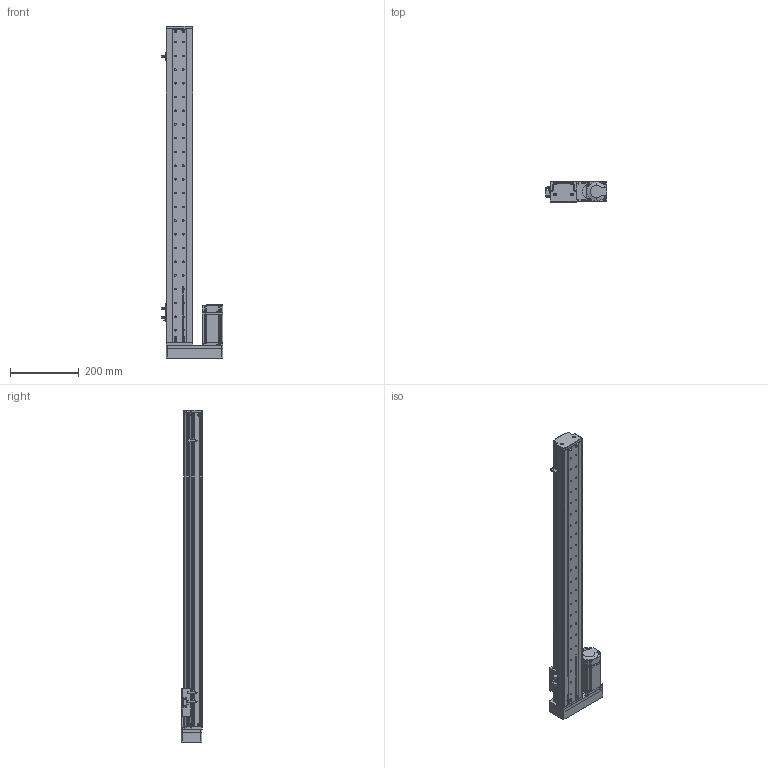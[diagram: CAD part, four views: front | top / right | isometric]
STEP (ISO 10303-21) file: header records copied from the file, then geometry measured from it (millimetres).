
FILE_DESCRIPTION (( 'STEP AP214' ), '1' );
FILE_NAME ('KSD75S-S760-ML-CM.STEP', '2019-10-18T07:05:07', ( '微软用户' ), ( '微软中国' ), 'SwSTEP 2.0', 'SolidWorks 2014', '' );
FILE_SCHEMA (( 'AUTOMOTIVE_DESIGN' ));
Length unit declared in the file: millimetre
Products named in the file (13): MHMD042G1CA_2_03; 75宽模组保护罩左右折; 75宽马达安装板连板左右折丝杆; 覜茼え100遵圉猾敕; U倰嫖萇EEㄜSX672; 綴傷啣 ; ヶ傷啣; 75裔啣-760俴最; 75遵耀郪耜啣-760俴最; 75遵賑雄釱; MGW15H賑寢760; 760俴最; KSD75S-S760-ML-CM
Assembly tree (15 placements, depth 3):
  KSD75S-S760-ML-CM
    MGW15H賑寢760
      760俴最
    75遵賑雄釱
    75遵耀郪耜啣-760俴最  x2
    75裔啣-760俴最
    ヶ傷啣
    綴傷啣 
    U倰嫖萇EEㄜSX672  x3
    覜茼え100遵圉猾敕
    75宽马达安装板连板左右折丝杆
    75宽模组保护罩左右折
    MHMD042G1CA_2_03
Bounding box: 178.7 x 63 x 967.5 mm (x, y, z)
Volume: 1169875.3 mm3; surface area: 738118.7 mm2
Topology: 13 solids, 14 shells, 1553 faces, 4354 edges, 2845 vertices
Faces by surface type: cylinder 763, plane 643, cone 129, bspline 18
Entity records: 49690 total; most frequent: CARTESIAN_POINT 9368, DIRECTION 7544, ORIENTED_EDGE 6988, EDGE_CURVE 3565, AXIS2_PLACEMENT_3D 2800, VERTEX_POINT 2363, LINE 1944, VECTOR 1944
